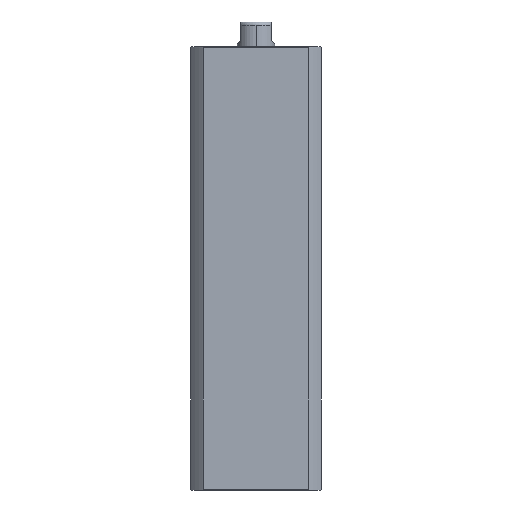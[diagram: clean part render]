
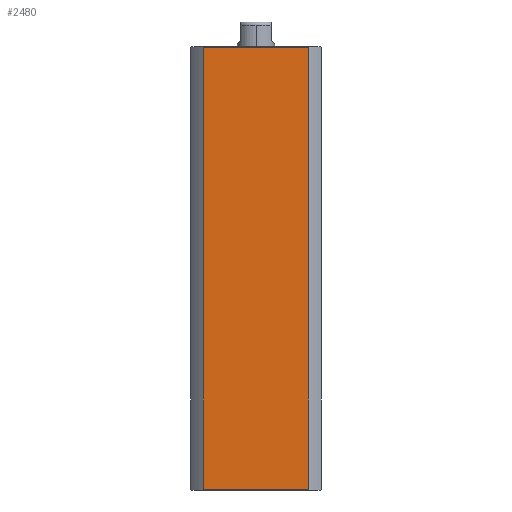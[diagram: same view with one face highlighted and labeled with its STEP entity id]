
A CAD part, left-side view. The second image highlights one B-rep face of the part: STEP entity #2480.
In plain terms, the highlighted planar face has unit normal (-1, 0, 0).
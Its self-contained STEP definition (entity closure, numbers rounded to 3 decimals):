
#609 = LINE ( 'NONE', #2577, #7524 ) ;
#676 = VERTEX_POINT ( 'NONE', #9383 ) ;
#1835 = LINE ( 'NONE', #4335, #6347 ) ;
#1838 = PLANE ( 'NONE',  #9267 ) ;
#1857 = VERTEX_POINT ( 'NONE', #3839 ) ;
#2364 = CARTESIAN_POINT ( 'NONE',  ( -21., 16.971, -107. ) ) ;
#2407 = DIRECTION ( 'NONE',  ( 0., 0., 1. ) ) ;
#2480 = ADVANCED_FACE ( 'NONE', ( #5101 ), #1838, .F. ) ;
#2577 = CARTESIAN_POINT ( 'NONE',  ( -21., 21., 0.3 ) ) ;
#2622 = EDGE_CURVE ( 'NONE', #7582, #9411, #11684, .T. ) ;
#3072 = EDGE_LOOP ( 'NONE', ( #9377, #6416, #5593, #9062 ) ) ;
#3839 = CARTESIAN_POINT ( 'NONE',  ( -21., -16.971, 0.3 ) ) ;
#4087 = VECTOR ( 'NONE', #10520, 1000. ) ;
#4335 = CARTESIAN_POINT ( 'NONE',  ( -21., -16.971, -107. ) ) ;
#4604 = EDGE_CURVE ( 'NONE', #676, #9411, #11258, .T. ) ;
#4717 = CARTESIAN_POINT ( 'NONE',  ( -21., 21., 143. ) ) ;
#5050 = EDGE_CURVE ( 'NONE', #676, #1857, #1835, .T. ) ;
#5101 = FACE_OUTER_BOUND ( 'NONE', #3072, .T. ) ;
#5593 = ORIENTED_EDGE ( 'NONE', *, *, #5050, .F. ) ;
#5655 = DIRECTION ( 'NONE',  ( 1., 0., 0. ) ) ;
#6347 = VECTOR ( 'NONE', #7969, 1000. ) ;
#6416 = ORIENTED_EDGE ( 'NONE', *, *, #6629, .T. ) ;
#6543 = DIRECTION ( 'NONE',  ( 0., 1., 0. ) ) ;
#6629 = EDGE_CURVE ( 'NONE', #7582, #1857, #609, .T. ) ;
#6904 = VECTOR ( 'NONE', #2407, 1000. ) ;
#7524 = VECTOR ( 'NONE', #8842, 1000. ) ;
#7537 = CARTESIAN_POINT ( 'NONE',  ( -21., 16.971, 142.7 ) ) ;
#7582 = VERTEX_POINT ( 'NONE', #11187 ) ;
#7969 = DIRECTION ( 'NONE',  ( 0., 0., -1. ) ) ;
#8842 = DIRECTION ( 'NONE',  ( 0., -1., 0. ) ) ;
#9062 = ORIENTED_EDGE ( 'NONE', *, *, #4604, .T. ) ;
#9267 = AXIS2_PLACEMENT_3D ( 'NONE', #4717, #5655, #6543 ) ;
#9377 = ORIENTED_EDGE ( 'NONE', *, *, #2622, .F. ) ;
#9383 = CARTESIAN_POINT ( 'NONE',  ( -21., -16.971, 142.7 ) ) ;
#9411 = VERTEX_POINT ( 'NONE', #7537 ) ;
#10520 = DIRECTION ( 'NONE',  ( 0., 1., 0. ) ) ;
#11187 = CARTESIAN_POINT ( 'NONE',  ( -21., 16.971, 0.3 ) ) ;
#11258 = LINE ( 'NONE', #11431, #4087 ) ;
#11431 = CARTESIAN_POINT ( 'NONE',  ( -21., 21., 142.7 ) ) ;
#11684 = LINE ( 'NONE', #2364, #6904 ) ;
